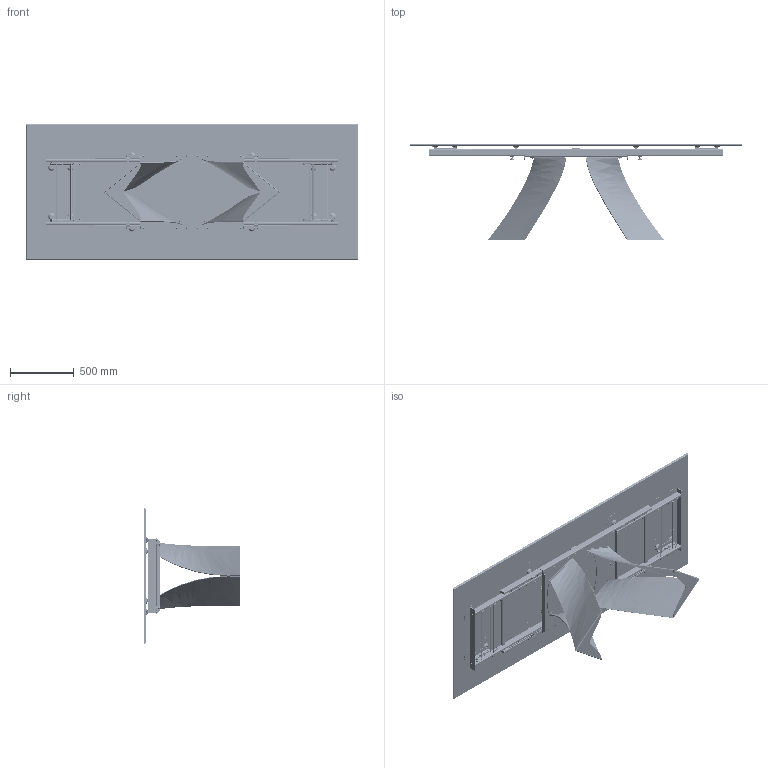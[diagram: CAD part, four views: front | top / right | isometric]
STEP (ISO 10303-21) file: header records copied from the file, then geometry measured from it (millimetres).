
FILE_DESCRIPTION (( 'STEP AP203' ), '1' );
FILE_NAME ('TW31G_Twist 180-260_Open_Ceramic.STEP', '2024-08-01T13:48:40', ( '' ), ( '' ), 'SwSTEP 2.0', 'SolidWorks 2022', '' );
FILE_SCHEMA (( 'CONFIG_CONTROL_DESIGN' ));
Length unit declared in the file: millimetre
Products named in the file (74): DISCO PER PIANI IN CERAMICA; 523020814; 1000084; 521061110; 1000046; M6xXXmm_M6x20mm; 523020817; RUOTA NEB H23,4; 1000289; K34_01-00-CERAMICA X ALLUNGABILE 180X106; 1000337; 523020801; 1000487; TTAV04-00-TELAIO ALLUNGABILE X TAVOLI 180 260cm_aperto_02; 1000165; 1000338; 1000251; 1000013; GAMBA TWIST PER ALLUNGABILE_PIASTRA VERTICALE SINISTRA; K34A_01-00-CERAMICA ALLUNGA 40X106; 1000573; GAMBA TWIST PER ALLUNGABILE_PIEDE A TERRA; SAB100301-00-CILINDRO_TWIST ALL PIASTRA ANCORAGGIO V03 ANTRACITE GOFFRATO IMB; 1000262; 523020806; 1000304; 1000181; 523020811; 521061107_DEFAULT; SAB100301_02-00-CILINDRO_TWIST ALL PIASTRA ANCORAGGIO V03 ANTRACITE GOFFRATO IMB.SLDASM; SpecchiaturaGAMBA TWIST PER ALLUNGABILE_PIASTRA VERTICALE DESTRA; 5230208 TEL INT_CHIUSO_aperto; 5230208 SAL_LIBERO; TWS000000BAA-00-TWIST BASE GREZZA X ALLUNGABILE; K34A-00-ALLUNGA 40X106; 523020813; 1001576; 523020805; K34-00-PIANO ALLUNGABILE 180X106; 3001149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
Assembly tree (233 placements, depth 5):
  TW31G_Twist 180-260_Open_Ceramic
    COLLO TELAIO UNIVERSALE SAB100301 CON FERRAMENTA
      SAB100301-00-CILINDRO_TWIST ALL PIASTRA ANCORAGGIO V03 ANTRACITE GOFFRATO IMB
        SAB100301_01-00-CILINDRO_TWIST ALL PIASTRA ANCORAGGIO V03 ANTRACITE GOFFRATO IMB.SLDASM
        SAB100301_02-00-CILINDRO_TWIST ALL PIASTRA ANCORAGGIO V03 ANTRACITE GOFFRATO IMB.SLDASM  x2
      M6xXXmm_M6x20mm  x12
    TWS000000BAA-00-TWIST BASE GREZZA X ALLUNGABILE  x2
      GAMBA TWIST PER ALLUNGABILE_PIASTRA COLLEGAMENTO
      GAMBA TWIST PER ALLUNGABILE_PIASTRA VERTICALE SINISTRA
      GAMBA TWIST PER ALLUNGABILE_PIEDE A TERRA
      SpecchiaturaGAMBA TWIST PER ALLUNGABILE_PIASTRA VERTICALE DESTRA
    TTAV04-00-TELAIO ALLUNGABILE X TAVOLI 180 260cm_aperto_02
      5230208 TEL EST_DEFAULT
        523020803  x2
        523020813  x2
        521061110  x2
        523020811
        FERMO NEBULA H15,5  x4
          1000242
          1000515
          1000325
        1000144  x4
        521060816  x4
        1001535  x4
        1000250  x24
        1000165
        1000305  x4
        1000280  x4
        1000013  x4
        1000865  x4
        3001149  x4
        1000273  x20
        523020814  x4
        1000375  x8
        1000166
        1001576  x4
      5230208 TEL INT_CHIUSO_aperto  x2
        5230208 SAL_LIBERO
          523020808
          523020806
          523020801  x2
          523020804_DEFAULT
          523020805
          521061107_DEFAULT  x4
          2001011  x2
        523020802
        1000487
        RUOTA NEB H23,4
          1000338
          1000443
          1000084
        1000289
        1000096
        1000170
        1000304
        1000244
        1000375
        1000001A
        1000973
        1000262
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Bounding box: 2600 x 749.55 x 1060 mm (x, y, z)
Volume: 48657388 mm3; surface area: 18210323.9 mm2
Topology: 53 solids, 320 shells, 8558 faces, 20592 edges, 12980 vertices
Faces by surface type: cylinder 3494, plane 3448, cone 872, bspline 528, torus 216
Entity records: 80760 total; most frequent: CARTESIAN_POINT 20860, DIRECTION 10522, ORIENTED_EDGE 9562, EDGE_CURVE 4781, AXIS2_PLACEMENT_3D 3948, VERTEX_POINT 3074, LINE 2626, VECTOR 2626
